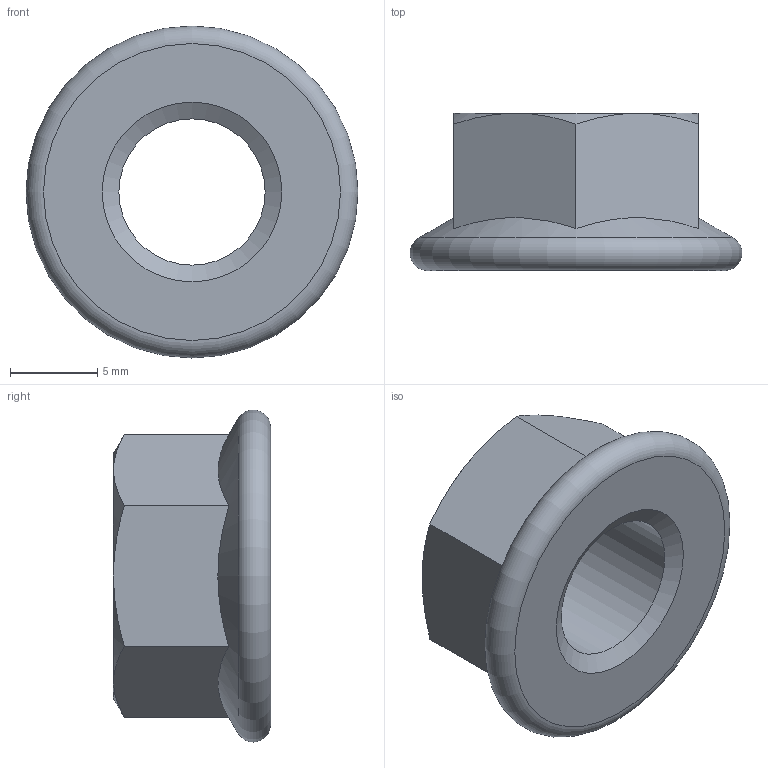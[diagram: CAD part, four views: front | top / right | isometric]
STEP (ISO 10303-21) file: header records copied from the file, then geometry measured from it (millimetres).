
FILE_DESCRIPTION(/* description */ (''),/* implementation_level */ '2;1');
FILE_NAME(/* name */ 'C:\Users\unitec\Documents\Inventor\HP\ナット\JIS B 1190 フランジ付ナット\f-nut_m10.stp',/* time_stamp */ '2017-09-12T15:57:14+09:00',/* author */ ('unitec'),/* organization */ (''),/* preprocessor_version */ 'ST-DEVELOPER v15.2',/* originating_system */ 'Autodesk Inventor 2014',/* authorisation */ '');
FILE_SCHEMA (('AUTOMOTIVE_DESIGN { 1 0 10303 214 3 1 1 }'));
Length unit declared in the file: millimetre
Products named in the file (1): f-nut_m10
Bounding box: 19 x 9 x 19 mm (x, y, z)
Volume: 1241.4 mm3; surface area: 1041.5 mm2
Topology: 1 solids, 1 shells, 19 faces, 43 edges, 26 vertices
Faces by surface type: cone 9, plane 8, cylinder 1, torus 1
Full cylindrical faces by diameter (mm): 8.376 x1
Entity records: 489 total; most frequent: CARTESIAN_POINT 116, ORIENTED_EDGE 72, DIRECTION 70, EDGE_CURVE 36, AXIS2_PLACEMENT_3D 32, EDGE_LOOP 26, VERTEX_POINT 24, FACE_OUTER_BOUND 19
